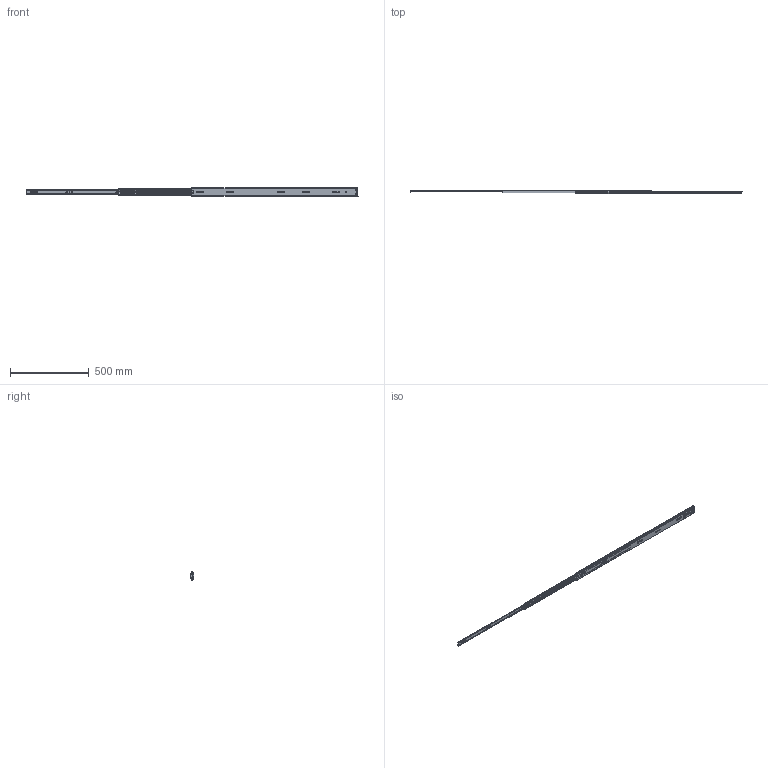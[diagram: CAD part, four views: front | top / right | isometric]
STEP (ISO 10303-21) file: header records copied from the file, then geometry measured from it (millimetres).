
FILE_DESCRIPTION((''),'2;1');
FILE_NAME('1053-HD-1050_ASM','2023-11-18T',('jishu015'),(''),'PRO/ENGINEER BY PARAMETRIC TECHNOLOGY CORPORATION, 2010280','PRO/ENGINEER BY PARAMETRIC TECHNOLOGY CORPORATION, 2010280','');
FILE_SCHEMA(('CONFIG_CONTROL_DESIGN'));
Products named in the file (25): 1053-02-18WAIKE11____; MANIFOLD_SOLID_BREP_512____; MANIFOLD_SOLID_BREP_5212____; MANIFOLD_SOLID_BREP_5312____; ADMI29141B9BC7PD_ASM11___ASM; ASM0001_______________ASM; 53_ASM_______________ASM; 1053-02-18XTPJG-DAZHUJIA2______; 1053-02-18XTPJG-5-6GANZHU13_; ZHONGGUIJIAO-11________________; 1053-02-18XTPJG-DAZHUJIA1233_ASM; 1053-02-18WAIKE11_____ASM; 1053-02-18ZHONGGUI11_______; 53ZHIDIJIAO12____; 3X6-MAODING______________; 1053-02-18ZHONGGUI11________ASM; 1053XIAOZHUJIA-14GE11________; 53-5-6GANZHU12____; 1053XIAOZHUJIA-14GE11_________ASM; 1053-02-18NEIGUI12_____; 53BACHA12____; XIAOMAODING______________; 3X4MAODING______________; 1053-02-18NEIGUI12______ASM; 1053-HD-1050_ASM
Assembly tree (167 placements, depth 6):
  1053-HD-1050_ASM
    1053-02-18WAIKE11_____ASM
      1053-02-18WAIKE11____
      53_ASM_______________ASM
        ASM0001_______________ASM
          ADMI29141B9BC7PD_ASM11___ASM
            MANIFOLD_SOLID_BREP_512____
            MANIFOLD_SOLID_BREP_5212____
            MANIFOLD_SOLID_BREP_5312____
      1053-02-18XTPJG-DAZHUJIA1233_ASM
        1053-02-18XTPJG-DAZHUJIA2______
        1053-02-18XTPJG-5-6GANZHU13_  x72
        ZHONGGUIJIAO-11________________  x2
    1053-02-18ZHONGGUI11________ASM
      1053-02-18ZHONGGUI11_______
      53ZHIDIJIAO12____
      3X6-MAODING______________
    1053XIAOZHUJIA-14GE11_________ASM
      1053XIAOZHUJIA-14GE11________
      53-5-6GANZHU12____  x72
    1053-02-18NEIGUI12______ASM
      1053-02-18NEIGUI12_____
      53BACHA12____
      XIAOMAODING______________
      3X4MAODING______________
Bounding box: 2102.1 x 19.75 x 53 mm (x, y, z)
Volume: 403098.9 mm3; surface area: 500712.1 mm2
Topology: 159 solids, 159 shells, 5052 faces, 14109 edges, 8776 vertices
Faces by surface type: plane 2207, cylinder 2076, sphere 318, bspline 262, cone 127, torus 60, extrusion 2
Entity records: 174668 total; most frequent: CARTESIAN_POINT 52327, ORIENTED_EDGE 26012, DIRECTION 24927, EDGE_CURVE 13006, AXIS2_PLACEMENT_3D 8519, VERTEX_POINT 8366, VECTOR 7889, LINE 7887
